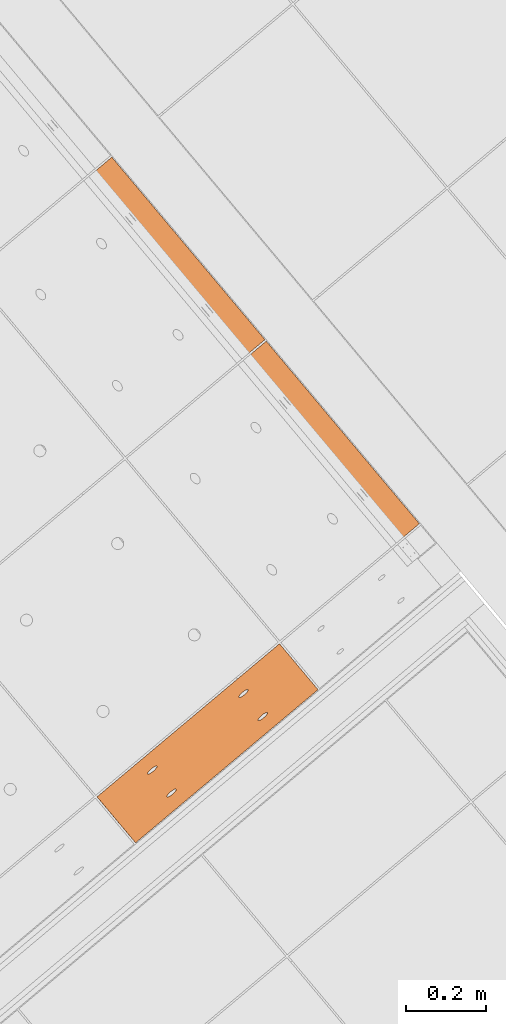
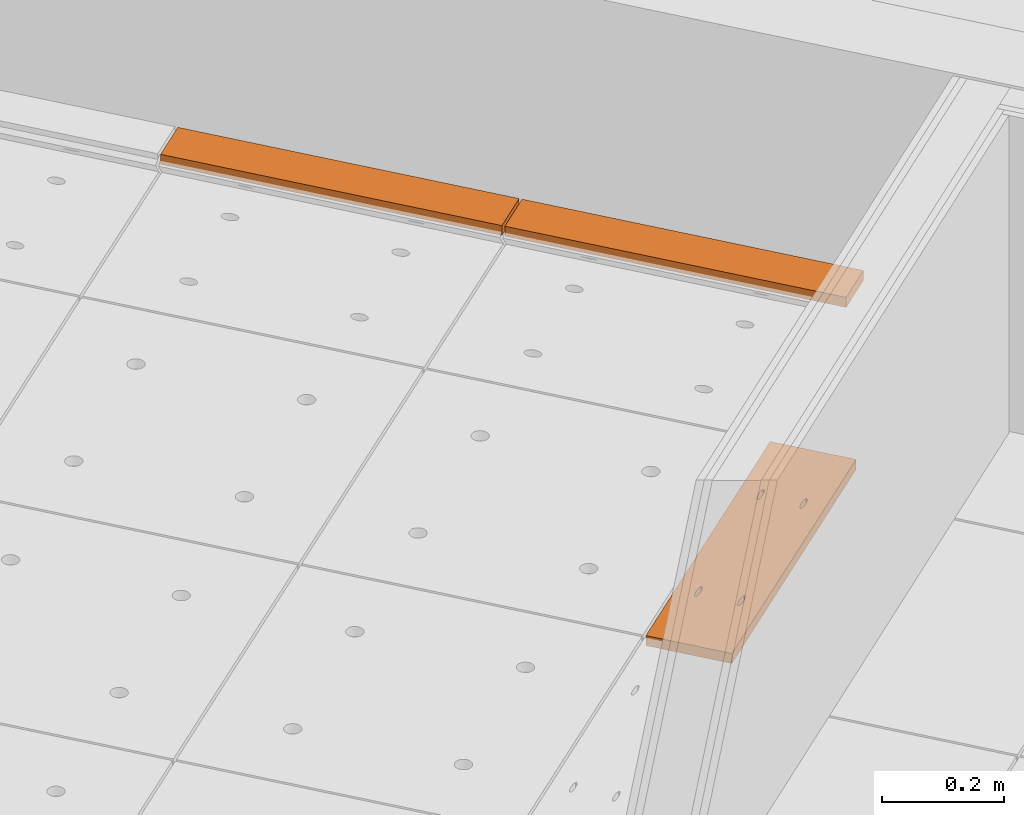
# One storey, part 203 of 338: 3 proxies, 1 element without a shape of its own.
"""IFC2X3 building model written with IfcOpenShell, lengths in millimetres."""

from ifc_helpers import new_model, entity, si_unit, converted_unit, derived_unit, money_unit, direction, frame, origin_with_axes, place, context, subcontext, project, spatial, faceted_brep, source, transform, mapped, material, type_object, type_shapes, element, aggregate, save


model = new_model("IFC2X3")

# Units and contexts
model_context = context("Model", 3, precision=0.01, world=origin_with_axes(), true_north=direction((0.0, 1.0)))
plan_context = context("Plan", 3, precision=0.01, world=origin_with_axes(), true_north=direction((0.0, 1.0)))
body_context = subcontext(model_context, "Body", "Model", "MODEL_VIEW")
ifc_project = project(units=[si_unit("LENGTHUNIT", "METRE", prefix="MILLI"), si_unit("AREAUNIT", "SQUARE_METRE"), si_unit("VOLUMEUNIT", "CUBIC_METRE"), converted_unit("PLANEANGLEUNIT", "DEGREE", entity("IfcPlaneAngleMeasure", 0.0174532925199), si_unit("PLANEANGLEUNIT", "RADIAN"), dimensions=[0, 0, 0, 0, 0, 0, 0]), money_unit("EUR"), converted_unit("TIMEUNIT", "Year", entity("IfcTimeMeasure", 31556926.0), si_unit("TIMEUNIT", "SECOND"), dimensions=[0, 0, 1, 0, 0, 0, 0]), si_unit("MASSUNIT", "GRAM", prefix="KILO"), si_unit("THERMODYNAMICTEMPERATUREUNIT", "DEGREE_CELSIUS"), si_unit("LUMINOUSINTENSITYUNIT", "LUMEN"), si_unit("ENERGYUNIT", "JOULE", prefix="MEGA"), derived_unit("THERMALCONDUCTANCEUNIT", [(si_unit("POWERUNIT", "WATT"), 1), (si_unit("LENGTHUNIT", "METRE"), -1), (si_unit("THERMODYNAMICTEMPERATUREUNIT", "KELVIN"), -1)]), derived_unit("SPECIFICHEATCAPACITYUNIT", [(si_unit("ENERGYUNIT", "JOULE"), 1), (si_unit("MASSUNIT", "GRAM", prefix="KILO"), -1), (si_unit("THERMODYNAMICTEMPERATUREUNIT", "KELVIN"), -1)]), derived_unit("MASSDENSITYUNIT", [(si_unit("MASSUNIT", "GRAM", prefix="KILO"), 1), (si_unit("VOLUMEUNIT", "CUBIC_METRE"), -1)])], contexts=[model_context, plan_context])

# Site, building, storey
site_placement = place(None, origin_with_axes())
site = spatial("IfcSite", under=ifc_project, at=site_placement, Name="Fortuinstraat Woensdrecht", CompositionType="ELEMENT")
building_placement = place(site_placement, origin_with_axes())
building = spatial("IfcBuilding", under=site, at=building_placement, Name="IKC Fortuna", CompositionType="ELEMENT")
storey_placement = place(building_placement, origin_with_axes())
storey = spatial("IfcBuildingStorey", under=building, at=storey_placement, Name="00 begane grond", CompositionType="ELEMENT", Elevation=0.0)

# Covering, proxies
covering_type = type_object("IfcCoveringType", Name="Curtain Wall Type", PredefinedType="CEILING")
covering_placement = place(storey_placement, frame((15863.124366, 4456.31398675, 4619.99995334), z_axis=(0.0, 0.0, 1.0), x_axis=(1.0, 0.0, 0.0)))
covering = element("IfcCovering", 1, at=covering_placement, inside=storey, type_object=covering_type, Name="45_Plafondafwerking_P01", PredefinedType="CEILING")
ifc_material = material(Name="Gipsplaat")
building_element_proxy_type_1 = type_object("IfcBuildingElementProxyType", Name="87 x 600 x 20", PredefinedType="NOTDEFINED")
shared_shape_1 = source(origin_with_axes(), body_context, "Body", "Brep", [
    faceted_brep([(142.231818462, 2.49999429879, -10.0), (224.589025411, 2.49999726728, -10.0), (224.589025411, 2.49999726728, 10.0), (142.231818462, 2.49999429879, 10.0), (142.231833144, 597.500001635, -10.0), (224.589035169, 597.499998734, -10.0), (224.589035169, 597.499998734, 10.0), (142.231833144, 597.500001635, 10.0)], [[[0, 1, 2, 3]], [[0, 4, 5, 1]], [[1, 5, 6, 2]], [[3, 2, 6, 7]], [[4, 0, 3, 7]], [[5, 4, 7, 6]]]),
])
proxy_1_placement = place(covering_placement, frame((-212.952563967, 253.786875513, 40.0000466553), z_axis=(0.0, 0.0, 1.0), x_axis=(1.0, 0.0, 0.0)))
proxy_1 = element("IfcBuildingElementProxy", 2, at=proxy_1_placement, type_object=building_element_proxy_type_1, material=ifc_material, Name="__600x635 Rockfon Krios", context=body_context, shape_type="MappedRepresentation", body=[
    mapped(shared_shape_1, transform((-52.3358293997, 347.707272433, -1.1901590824e-10), x_axis=(-0.766044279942, -0.642787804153, 0.0), y_axis=(0.642787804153, -0.766044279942, 0.0), z_axis=(0.0, 0.0, 1.0))),
])
shared_shape_2 = source(origin_with_axes(), body_context, "Body", "Brep", [
    faceted_brep([(142.231823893, 2.49999437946, -10.0), (224.589030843, 2.49999734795, -10.0), (224.589030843, 2.49999734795, 10.0), (142.231823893, 2.49999437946, 10.0), (142.231833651, 597.499995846, -10.0), (224.5890406, 597.499998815, -10.0), (224.5890406, 597.499998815, 10.0), (142.231833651, 597.499995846, 10.0)], [[[0, 1, 2, 3]], [[0, 4, 5, 1]], [[1, 5, 6, 2]], [[3, 2, 6, 7]], [[4, 0, 3, 7]], [[5, 4, 7, 6]]]),
])
type_shapes(building_element_proxy_type_1, [shared_shape_1, shared_shape_2])
proxy_2_placement = place(covering_placement, frame((-598.625246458, 713.413443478, 40.0000466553), z_axis=(0.0, 0.0, 1.0), x_axis=(1.0, 0.0, 0.0)))
proxy_2 = element("IfcBuildingElementProxy", 3, at=proxy_2_placement, type_object=building_element_proxy_type_1, material=ifc_material, Name="__600x666 Rockfon Krios", context=body_context, shape_type="MappedRepresentation", body=[
    mapped(shared_shape_2, transform((-52.3358293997, 347.707272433, -1.1901590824e-10), x_axis=(-0.766044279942, -0.642787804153, 0.0), y_axis=(0.642787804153, -0.766044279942, 0.0), z_axis=(0.0, 0.0, 1.0))),
])
building_element_proxy_type_2 = type_object("IfcBuildingElementProxyType", Name="Main Panel 600 x 155 x 20", PredefinedType="NOTDEFINED")
shared_shape_3 = source(origin_with_axes(), body_context, "Body", "Brep", [
    faceted_brep([(2.49998744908, 2.49999213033, -10.0), (299.99999735, 2.49999213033, -10.0), (299.99999735, 2.49999213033, 10.0), (2.49998744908, 2.49999213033, 10.0), (2.49998744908, 77.4544066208, -10.0), (2.49998744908, 152.408821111, -10.0), (299.99999735, 152.408821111, -10.0), (597.50000725, 152.408821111, -10.0), (597.50000725, 77.4544066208, -10.0), (597.50000725, 2.49999213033, -10.0), (166.249992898, 115.262252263, -10.0), (165.794225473, 115.913482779, -10.0), (164.896538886, 116.534879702, -10.0), (163.58420889, 117.107562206, -10.0), (161.897109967, 117.614129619, -10.0), (159.886503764, 118.03919015, -10.0), (157.613481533, 118.369828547, -10.0), (155.147107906, 118.595998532, -10.0), (152.562322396, 118.710828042, -10.0), (149.937662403, 118.710828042, -10.0), (147.352876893, 118.595998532, -10.0), (144.886503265, 118.369828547, -10.0), (142.613481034, 118.03919015, -10.0), (140.602874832, 117.614129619, -10.0), (138.915775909, 117.107562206, -10.0), (137.603445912, 116.534879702, -10.0), (136.705759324, 115.913482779, -10.0), (136.2499919, 115.262252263, -10.0), (136.2499919, 114.931613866, -10.0), (136.2499919, 114.600975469, -10.0), (136.705759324, 113.949744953, -10.0), (137.603445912, 113.32834803, -10.0), (138.915775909, 112.755665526, -10.0), (140.602874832, 112.249098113, -10.0), (142.613481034, 111.824037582, -10.0), (144.886503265, 111.493399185, -10.0), (147.352876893, 111.2672292, -10.0), (149.937662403, 111.15239969, -10.0), (152.562322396, 111.15239969, -10.0), (155.147107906, 111.2672292, -10.0), (157.613481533, 111.493399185, -10.0), (159.886503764, 111.824037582, -10.0), (161.897109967, 112.249098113, -10.0), (163.58420889, 112.755665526, -10.0), (164.896538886, 113.32834803, -10.0), (165.794225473, 113.949744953, -10.0), (166.249992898, 114.600975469, -10.0), (463.750002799, 115.262252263, -10.0), (463.294235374, 115.913482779, -10.0), (462.396548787, 116.534879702, -10.0), (461.08421879, 117.107562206, -10.0), (459.397119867, 117.614129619, -10.0), (457.386513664, 118.03919015, -10.0), (455.113491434, 118.369828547, -10.0), (452.647117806, 118.595998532, -10.0), (450.062332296, 118.710828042, -10.0), (447.437672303, 118.710828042, -10.0), (444.852886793, 118.595998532, -10.0), (442.386513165, 118.369828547, -10.0), (440.113490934, 118.03919015, -10.0), (438.102884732, 117.614129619, -10.0), (436.415785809, 117.107562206, -10.0), (435.103455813, 116.534879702, -10.0), (434.205769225, 115.913482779, -10.0), (433.750001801, 115.262252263, -10.0), (433.750001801, 114.931613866, -10.0), (433.750001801, 114.600975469, -10.0), (434.205769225, 113.949744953, -10.0), (435.103455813, 113.32834803, -10.0), (436.415785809, 112.755665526, -10.0), (438.102884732, 112.249098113, -10.0), (440.113490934, 111.824037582, -10.0), (442.386513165, 111.493399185, -10.0), (444.852886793, 111.2672292, -10.0), (447.437672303, 111.15239969, -10.0), (450.062332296, 111.15239969, -10.0), (452.647117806, 111.2672292, -10.0), (455.113491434, 111.493399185, -10.0), (457.386513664, 111.824037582, -10.0), (459.397119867, 112.249098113, -10.0), (461.08421879, 112.755665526, -10.0), (462.396548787, 113.32834803, -10.0), (463.294235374, 113.949744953, -10.0), (463.750002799, 114.600975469, -10.0), (463.750002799, 40.3078377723, -10.0), (463.294235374, 40.9590682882, -10.0), (462.396548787, 41.5804652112, -10.0), (461.08421879, 42.1531477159, -10.0), (459.397119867, 42.6597151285, -10.0), (457.386513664, 43.0847756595, -10.0), (455.113491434, 43.4154140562, -10.0), (452.647117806, 43.6415840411, -10.0), (450.062332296, 43.7564135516, -10.0), (447.437672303, 43.7564135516, -10.0), (444.852886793, 43.6415840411, -10.0), (442.386513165, 43.4154140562, -10.0), (440.113490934, 43.0847756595, -10.0), (438.102884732, 42.6597151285, -10.0), (436.415785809, 42.1531477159, -10.0), (435.103455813, 41.5804652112, -10.0), (434.205769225, 40.9590682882, -10.0), (433.750001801, 40.3078377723, -10.0), (433.750001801, 39.9771993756, -10.0), (433.750001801, 39.6465609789, -10.0), (434.205769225, 38.9953304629, -10.0), (435.103455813, 38.3739335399, -10.0), (436.415785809, 37.8012510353, -10.0), (438.102884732, 37.2946836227, -10.0), (440.113490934, 36.8696230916, -10.0), (442.386513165, 36.5389846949, -10.0), (444.852886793, 36.31281471, -10.0), (447.437672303, 36.1979851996, -10.0), (450.062332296, 36.1979851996, -10.0), (452.647117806, 36.31281471, -10.0), (455.113491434, 36.5389846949, -10.0), (457.386513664, 36.8696230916, -10.0), (459.397119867, 37.2946836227, -10.0), (461.08421879, 37.8012510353, -10.0), (462.396548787, 38.3739335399, -10.0), (463.294235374, 38.9953304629, -10.0), (463.750002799, 39.6465609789, -10.0), (166.249992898, 40.3078377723, -10.0), (165.794225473, 40.9590682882, -10.0), (164.896538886, 41.5804652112, -10.0), (163.58420889, 42.1531477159, -10.0), (161.897109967, 42.6597151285, -10.0), (159.886503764, 43.0847756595, -10.0), (157.613481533, 43.4154140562, -10.0), (155.147107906, 43.6415840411, -10.0), (152.562322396, 43.7564135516, -10.0), (149.937662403, 43.7564135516, -10.0), (147.352876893, 43.6415840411, -10.0), (144.886503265, 43.4154140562, -10.0), (142.613481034, 43.0847756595, -10.0), (140.602874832, 42.6597151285, -10.0), (138.915775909, 42.1531477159, -10.0), (137.603445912, 41.5804652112, -10.0), (136.705759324, 40.9590682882, -10.0), (136.2499919, 40.3078377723, -10.0), (136.2499919, 39.9771993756, -10.0), (136.2499919, 39.6465609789, -10.0), (136.705759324, 38.9953304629, -10.0), (137.603445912, 38.3739335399, -10.0), (138.915775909, 37.8012510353, -10.0), (140.602874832, 37.2946836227, -10.0), (142.613481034, 36.8696230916, -10.0), (144.886503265, 36.5389846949, -10.0), (147.352876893, 36.31281471, -10.0), (149.937662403, 36.1979851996, -10.0), (152.562322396, 36.1979851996, -10.0), (155.147107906, 36.31281471, -10.0), (157.613481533, 36.5389846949, -10.0), (159.886503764, 36.8696230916, -10.0), (161.897109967, 37.2946836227, -10.0), (163.58420889, 37.8012510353, -10.0), (164.896538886, 38.3739335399, -10.0), (165.794225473, 38.9953304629, -10.0), (166.249992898, 39.6465609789, -10.0), (597.50000725, 2.49999213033, 10.0), (597.50000725, 77.4544066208, 10.0), (597.50000725, 152.408821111, 10.0), (299.99999735, 152.408821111, 10.0), (2.49998744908, 152.408821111, 10.0), (2.49998744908, 77.4544066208, 10.0), (166.249992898, 115.262252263, 10.0), (166.249992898, 114.600975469, 10.0), (165.794225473, 113.949744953, 10.0), (164.896538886, 113.32834803, 10.0), (163.58420889, 112.755665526, 10.0), (161.897109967, 112.249098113, 10.0), (159.886503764, 111.824037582, 10.0), (157.613481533, 111.493399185, 10.0), (155.147107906, 111.2672292, 10.0), (152.562322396, 111.15239969, 10.0), (149.937662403, 111.15239969, 10.0), (147.352876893, 111.2672292, 10.0), (144.886503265, 111.493399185, 10.0), (142.613481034, 111.824037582, 10.0), (140.602874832, 112.249098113, 10.0), (138.915775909, 112.755665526, 10.0), (137.603445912, 113.32834803, 10.0), (136.705759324, 113.949744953, 10.0), (136.2499919, 114.600975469, 10.0), (136.2499919, 114.931613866, 10.0), (136.2499919, 115.262252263, 10.0), (136.705759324, 115.913482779, 10.0), (137.603445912, 116.534879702, 10.0), (138.915775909, 117.107562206, 10.0), (140.602874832, 117.614129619, 10.0), (142.613481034, 118.03919015, 10.0), (144.886503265, 118.369828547, 10.0), (147.352876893, 118.595998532, 10.0), (149.937662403, 118.710828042, 10.0), (152.562322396, 118.710828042, 10.0), (155.147107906, 118.595998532, 10.0), (157.613481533, 118.369828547, 10.0), (159.886503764, 118.03919015, 10.0), (161.897109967, 117.614129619, 10.0), (163.58420889, 117.107562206, 10.0), (164.896538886, 116.534879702, 10.0), (165.794225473, 115.913482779, 10.0), (463.750002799, 115.262252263, 10.0), (463.750002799, 114.600975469, 10.0), (463.294235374, 113.949744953, 10.0), (462.396548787, 113.32834803, 10.0), (461.08421879, 112.755665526, 10.0), (459.397119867, 112.249098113, 10.0), (457.386513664, 111.824037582, 10.0), (455.113491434, 111.493399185, 10.0), (452.647117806, 111.2672292, 10.0), (450.062332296, 111.15239969, 10.0), (447.437672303, 111.15239969, 10.0), (444.852886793, 111.2672292, 10.0), (442.386513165, 111.493399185, 10.0), (440.113490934, 111.824037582, 10.0), (438.102884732, 112.249098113, 10.0), (436.415785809, 112.755665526, 10.0), (435.103455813, 113.32834803, 10.0), (434.205769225, 113.949744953, 10.0), (433.750001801, 114.600975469, 10.0), (433.750001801, 114.931613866, 10.0), (433.750001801, 115.262252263, 10.0), (434.205769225, 115.913482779, 10.0), (435.103455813, 116.534879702, 10.0), (436.415785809, 117.107562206, 10.0), (438.102884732, 117.614129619, 10.0), (440.113490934, 118.03919015, 10.0), (442.386513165, 118.369828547, 10.0), (444.852886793, 118.595998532, 10.0), (447.437672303, 118.710828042, 10.0), (450.062332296, 118.710828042, 10.0), (452.647117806, 118.595998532, 10.0), (455.113491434, 118.369828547, 10.0), (457.386513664, 118.03919015, 10.0), (459.397119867, 117.614129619, 10.0), (461.08421879, 117.107562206, 10.0), (462.396548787, 116.534879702, 10.0), (463.294235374, 115.913482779, 10.0), (463.750002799, 40.3078377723, 10.0), (463.750002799, 39.6465609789, 10.0), (463.294235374, 38.9953304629, 10.0), (462.396548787, 38.3739335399, 10.0), (461.08421879, 37.8012510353, 10.0), (459.397119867, 37.2946836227, 10.0), (457.386513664, 36.8696230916, 10.0), (455.113491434, 36.5389846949, 10.0), (452.647117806, 36.31281471, 10.0), (450.062332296, 36.1979851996, 10.0), (447.437672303, 36.1979851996, 10.0), (444.852886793, 36.31281471, 10.0), (442.386513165, 36.5389846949, 10.0), (440.113490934, 36.8696230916, 10.0), (438.102884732, 37.2946836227, 10.0), (436.415785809, 37.8012510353, 10.0), (435.103455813, 38.3739335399, 10.0), (434.205769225, 38.9953304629, 10.0), (433.750001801, 39.6465609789, 10.0), (433.750001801, 39.9771993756, 10.0), (433.750001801, 40.3078377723, 10.0), (434.205769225, 40.9590682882, 10.0), (435.103455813, 41.5804652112, 10.0), (436.415785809, 42.1531477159, 10.0), (438.102884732, 42.6597151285, 10.0), (440.113490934, 43.0847756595, 10.0), (442.386513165, 43.4154140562, 10.0), (444.852886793, 43.6415840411, 10.0), (447.437672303, 43.7564135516, 10.0), (450.062332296, 43.7564135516, 10.0), (452.647117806, 43.6415840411, 10.0), (455.113491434, 43.4154140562, 10.0), (457.386513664, 43.0847756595, 10.0), (459.397119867, 42.6597151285, 10.0), (461.08421879, 42.1531477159, 10.0), (462.396548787, 41.5804652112, 10.0), (463.294235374, 40.9590682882, 10.0), (166.249992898, 40.3078377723, 10.0), (166.249992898, 39.6465609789, 10.0), (165.794225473, 38.9953304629, 10.0), (164.896538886, 38.3739335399, 10.0), (163.58420889, 37.8012510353, 10.0), (161.897109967, 37.2946836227, 10.0), (159.886503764, 36.8696230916, 10.0), (157.613481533, 36.5389846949, 10.0), (155.147107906, 36.31281471, 10.0), (152.562322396, 36.1979851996, 10.0), (149.937662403, 36.1979851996, 10.0), (147.352876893, 36.31281471, 10.0), (144.886503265, 36.5389846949, 10.0), (142.613481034, 36.8696230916, 10.0), (140.602874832, 37.2946836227, 10.0), (138.915775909, 37.8012510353, 10.0), (137.603445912, 38.3739335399, 10.0), (136.705759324, 38.9953304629, 10.0), (136.2499919, 39.6465609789, 10.0), (136.2499919, 39.9771993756, 10.0), (136.2499919, 40.3078377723, 10.0), (136.705759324, 40.9590682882, 10.0), (137.603445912, 41.5804652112, 10.0), (138.915775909, 42.1531477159, 10.0), (140.602874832, 42.6597151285, 10.0), (142.613481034, 43.0847756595, 10.0), (144.886503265, 43.4154140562, 10.0), (147.352876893, 43.6415840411, 10.0), (149.937662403, 43.7564135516, 10.0), (152.562322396, 43.7564135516, 10.0), (155.147107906, 43.6415840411, 10.0), (157.613481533, 43.4154140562, 10.0), (159.886503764, 43.0847756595, 10.0), (161.897109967, 42.6597151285, 10.0), (163.58420889, 42.1531477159, 10.0), (164.896538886, 41.5804652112, 10.0), (165.794225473, 40.9590682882, 10.0)], [[[0, 1, 2, 3]], [[0, 4, 5, 6, 7, 8, 9, 1], [10, 11, 12, 13, 14, 15, 16, 17, 18, 19, 20, 21, 22, 23, 24, 25, 26, 27, 28, 29, 30, 31, 32, 33, 34, 35, 36, 37, 38, 39, 40, 41, 42, 43, 44, 45, 46], [47, 48, 49, 50, 51, 52, 53, 54, 55, 56, 57, 58, 59, 60, 61, 62, 63, 64, 65, 66, 67, 68, 69, 70, 71, 72, 73, 74, 75, 76, 77, 78, 79, 80, 81, 82, 83], [84, 85, 86, 87, 88, 89, 90, 91, 92, 93, 94, 95, 96, 97, 98, 99, 100, 101, 102, 103, 104, 105, 106, 107, 108, 109, 110, 111, 112, 113, 114, 115, 116, 117, 118, 119, 120], [121, 122, 123, 124, 125, 126, 127, 128, 129, 130, 131, 132, 133, 134, 135, 136, 137, 138, 139, 140, 141, 142, 143, 144, 145, 146, 147, 148, 149, 150, 151, 152, 153, 154, 155, 156, 157]], [[1, 9, 158, 2]], [[3, 2, 158, 159, 160, 161, 162, 163], [164, 165, 166, 167, 168, 169, 170, 171, 172, 173, 174, 175, 176, 177, 178, 179, 180, 181, 182, 183, 184, 185, 186, 187, 188, 189, 190, 191, 192, 193, 194, 195, 196, 197, 198, 199, 200], [201, 202, 203, 204, 205, 206, 207, 208, 209, 210, 211, 212, 213, 214, 215, 216, 217, 218, 219, 220, 221, 222, 223, 224, 225, 226, 227, 228, 229, 230, 231, 232, 233, 234, 235, 236, 237], [238, 239, 240, 241, 242, 243, 244, 245, 246, 247, 248, 249, 250, 251, 252, 253, 254, 255, 256, 257, 258, 259, 260, 261, 262, 263, 264, 265, 266, 267, 268, 269, 270, 271, 272, 273, 274], [275, 276, 277, 278, 279, 280, 281, 282, 283, 284, 285, 286, 287, 288, 289, 290, 291, 292, 293, 294, 295, 296, 297, 298, 299, 300, 301, 302, 303, 304, 305, 306, 307, 308, 309, 310, 311]], [[4, 0, 3, 163]], [[5, 4, 163, 162]], [[6, 5, 162, 161]], [[7, 6, 161, 160]], [[8, 7, 160, 159]], [[9, 8, 159, 158]], [[11, 10, 164, 200]], [[12, 11, 200, 199]], [[13, 12, 199, 198]], [[14, 13, 198, 197]], [[15, 14, 197, 196]], [[16, 15, 196, 195]], [[17, 16, 195, 194]], [[18, 17, 194, 193]], [[19, 18, 193, 192]], [[20, 19, 192, 191]], [[21, 20, 191, 190]], [[22, 21, 190, 189]], [[23, 22, 189, 188]], [[24, 23, 188, 187]], [[25, 24, 187, 186]], [[26, 25, 186, 185]], [[27, 26, 185, 184]], [[28, 27, 184, 183]], [[29, 28, 183, 182]], [[30, 29, 182, 181]], [[31, 30, 181, 180]], [[32, 31, 180, 179]], [[33, 32, 179, 178]], [[34, 33, 178, 177]], [[35, 34, 177, 176]], [[36, 35, 176, 175]], [[37, 36, 175, 174]], [[38, 37, 174, 173]], [[39, 38, 173, 172]], [[40, 39, 172, 171]], [[41, 40, 171, 170]], [[42, 41, 170, 169]], [[43, 42, 169, 168]], [[44, 43, 168, 167]], [[45, 44, 167, 166]], [[46, 45, 166, 165]], [[10, 46, 165, 164]], [[48, 47, 201, 237]], [[49, 48, 237, 236]], [[50, 49, 236, 235]], [[51, 50, 235, 234]], [[52, 51, 234, 233]], [[53, 52, 233, 232]], [[54, 53, 232, 231]], [[55, 54, 231, 230]], [[56, 55, 230, 229]], [[57, 56, 229, 228]], [[58, 57, 228, 227]], [[59, 58, 227, 226]], [[60, 59, 226, 225]], [[61, 60, 225, 224]], [[62, 61, 224, 223]], [[63, 62, 223, 222]], [[64, 63, 222, 221]], [[65, 64, 221, 220]], [[66, 65, 220, 219]], [[67, 66, 219, 218]], [[68, 67, 218, 217]], [[69, 68, 217, 216]], [[70, 69, 216, 215]], [[71, 70, 215, 214]], [[72, 71, 214, 213]], [[73, 72, 213, 212]], [[74, 73, 212, 211]], [[75, 74, 211, 210]], [[76, 75, 210, 209]], [[77, 76, 209, 208]], [[78, 77, 208, 207]], [[79, 78, 207, 206]], [[80, 79, 206, 205]], [[81, 80, 205, 204]], [[82, 81, 204, 203]], [[83, 82, 203, 202]], [[47, 83, 202, 201]], [[85, 84, 238, 274]], [[86, 85, 274, 273]], [[87, 86, 273, 272]], [[88, 87, 272, 271]], [[89, 88, 271, 270]], [[90, 89, 270, 269]], [[91, 90, 269, 268]], [[92, 91, 268, 267]], [[93, 92, 267, 266]], [[94, 93, 266, 265]], [[95, 94, 265, 264]], [[96, 95, 264, 263]], [[97, 96, 263, 262]], [[98, 97, 262, 261]], [[99, 98, 261, 260]], [[100, 99, 260, 259]], [[101, 100, 259, 258]], [[102, 101, 258, 257]], [[103, 102, 257, 256]], [[104, 103, 256, 255]], [[105, 104, 255, 254]], [[106, 105, 254, 253]], [[107, 106, 253, 252]], [[108, 107, 252, 251]], [[109, 108, 251, 250]], [[110, 109, 250, 249]], [[111, 110, 249, 248]], [[112, 111, 248, 247]], [[113, 112, 247, 246]], [[114, 113, 246, 245]], [[115, 114, 245, 244]], [[116, 115, 244, 243]], [[117, 116, 243, 242]], [[118, 117, 242, 241]], [[119, 118, 241, 240]], [[120, 119, 240, 239]], [[84, 120, 239, 238]], [[122, 121, 275, 311]], [[123, 122, 311, 310]], [[124, 123, 310, 309]], [[125, 124, 309, 308]], [[126, 125, 308, 307]], [[127, 126, 307, 306]], [[128, 127, 306, 305]], [[129, 128, 305, 304]], [[130, 129, 304, 303]], [[131, 130, 303, 302]], [[132, 131, 302, 301]], [[133, 132, 301, 300]], [[134, 133, 300, 299]], [[135, 134, 299, 298]], [[136, 135, 298, 297]], [[137, 136, 297, 296]], [[138, 137, 296, 295]], [[139, 138, 295, 294]], [[140, 139, 294, 293]], [[141, 140, 293, 292]], [[142, 141, 292, 291]], [[143, 142, 291, 290]], [[144, 143, 290, 289]], [[145, 144, 289, 288]], [[146, 145, 288, 287]], [[147, 146, 287, 286]], [[148, 147, 286, 285]], [[149, 148, 285, 284]], [[150, 149, 284, 283]], [[151, 150, 283, 282]], [[152, 151, 282, 281]], [[153, 152, 281, 280]], [[154, 153, 280, 279]], [[155, 154, 279, 278]], [[156, 155, 278, 277]], [[157, 156, 277, 276]], [[121, 157, 276, 275]]]),
])
type_shapes(building_element_proxy_type_2, [shared_shape_3])
proxy_3_placement = place(covering_placement, frame((-519.343780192, -496.03785871, 3.78777225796), z_axis=(0.0, 0.0, 1.0), x_axis=(0.642787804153, -0.766044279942, 0.0)))
proxy_3 = element("IfcBuildingElementProxy", 4, at=proxy_3_placement, type_object=building_element_proxy_type_2, material=ifc_material, Name="__600x075 Rockfon Krios", context=body_context, shape_type="MappedRepresentation", body=[
    mapped(shared_shape_3, transform((-77.4544115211, 299.995617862, -1.62150043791), x_axis=(0.0, -0.999985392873, 0.00540500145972), y_axis=(1.0, 0.0, 0.0), z_axis=(0.0, 0.00540500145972, 0.999985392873))),
])
aggregate(covering, [proxy_1, proxy_2, proxy_3])

save(model, "model.ifc")
